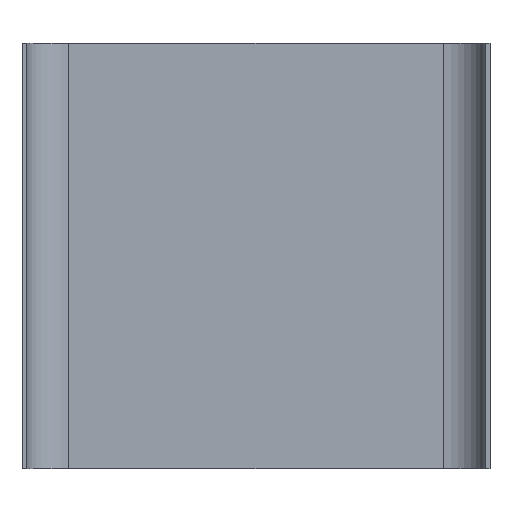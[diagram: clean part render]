
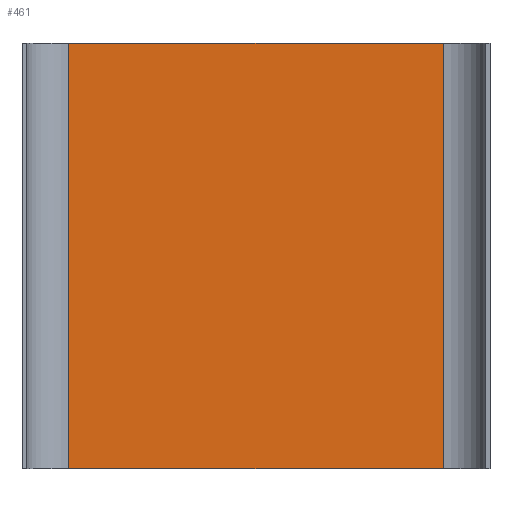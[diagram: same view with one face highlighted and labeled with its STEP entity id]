
A CAD part, front view. The second image highlights one B-rep face of the part: STEP entity #461.
In plain terms, the highlighted planar face has unit normal (0, -1, 0).
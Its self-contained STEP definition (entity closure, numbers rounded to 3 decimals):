
#15 = CARTESIAN_POINT ( 'NONE',  ( -88., 67., -100. ) ) ;
#53 = DIRECTION ( 'NONE',  ( 0., 1., 0. ) ) ;
#77 = VECTOR ( 'NONE', #95, 1000. ) ;
#85 = VERTEX_POINT ( 'NONE', #269 ) ;
#95 = DIRECTION ( 'NONE',  ( 0., 0., -1. ) ) ;
#104 = FACE_OUTER_BOUND ( 'NONE', #379, .T. ) ;
#107 = DIRECTION ( 'NONE',  ( 0., 0., 1. ) ) ;
#108 = VECTOR ( 'NONE', #217, 1000. ) ;
#126 = LINE ( 'NONE', #594, #433 ) ;
#131 = ORIENTED_EDGE ( 'NONE', *, *, #238, .F. ) ;
#142 = VECTOR ( 'NONE', #190, 1000. ) ;
#190 = DIRECTION ( 'NONE',  ( 1., 0., 0. ) ) ;
#217 = DIRECTION ( 'NONE',  ( 1., 0., 0. ) ) ;
#238 = EDGE_CURVE ( 'NONE', #464, #525, #521, .T. ) ;
#263 = DIRECTION ( 'NONE',  ( 0., 0., -1. ) ) ;
#269 = CARTESIAN_POINT ( 'NONE',  ( -88., 67., 100. ) ) ;
#293 = PLANE ( 'NONE',  #322 ) ;
#322 = AXIS2_PLACEMENT_3D ( 'NONE', #341, #53, #107 ) ;
#341 = CARTESIAN_POINT ( 'NONE',  ( -88., 67., 100. ) ) ;
#343 = EDGE_CURVE ( 'NONE', #85, #464, #429, .T. ) ;
#374 = CARTESIAN_POINT ( 'NONE',  ( 88., 67., 100. ) ) ;
#379 = EDGE_LOOP ( 'NONE', ( #468, #131, #621, #498 ) ) ;
#396 = CARTESIAN_POINT ( 'NONE',  ( 88., 67., 100. ) ) ;
#408 = LINE ( 'NONE', #15, #108 ) ;
#429 = LINE ( 'NONE', #627, #142 ) ;
#433 = VECTOR ( 'NONE', #263, 1000. ) ;
#461 = ADVANCED_FACE ( 'NONE', ( #104 ), #293, .F. ) ;
#464 = VERTEX_POINT ( 'NONE', #396 ) ;
#468 = ORIENTED_EDGE ( 'NONE', *, *, #590, .T. ) ;
#498 = ORIENTED_EDGE ( 'NONE', *, *, #591, .T. ) ;
#499 = CARTESIAN_POINT ( 'NONE',  ( -88., 67., -100. ) ) ;
#521 = LINE ( 'NONE', #374, #77 ) ;
#525 = VERTEX_POINT ( 'NONE', #583 ) ;
#530 = VERTEX_POINT ( 'NONE', #499 ) ;
#583 = CARTESIAN_POINT ( 'NONE',  ( 88., 67., -100. ) ) ;
#590 = EDGE_CURVE ( 'NONE', #530, #525, #408, .T. ) ;
#591 = EDGE_CURVE ( 'NONE', #85, #530, #126, .T. ) ;
#594 = CARTESIAN_POINT ( 'NONE',  ( -88., 67., 100. ) ) ;
#621 = ORIENTED_EDGE ( 'NONE', *, *, #343, .F. ) ;
#627 = CARTESIAN_POINT ( 'NONE',  ( -88., 67., 100. ) ) ;
